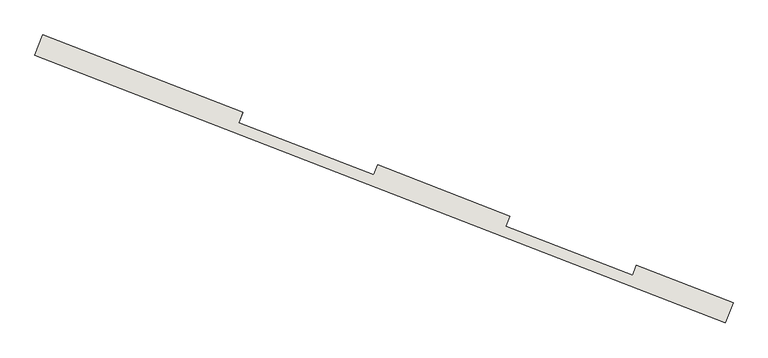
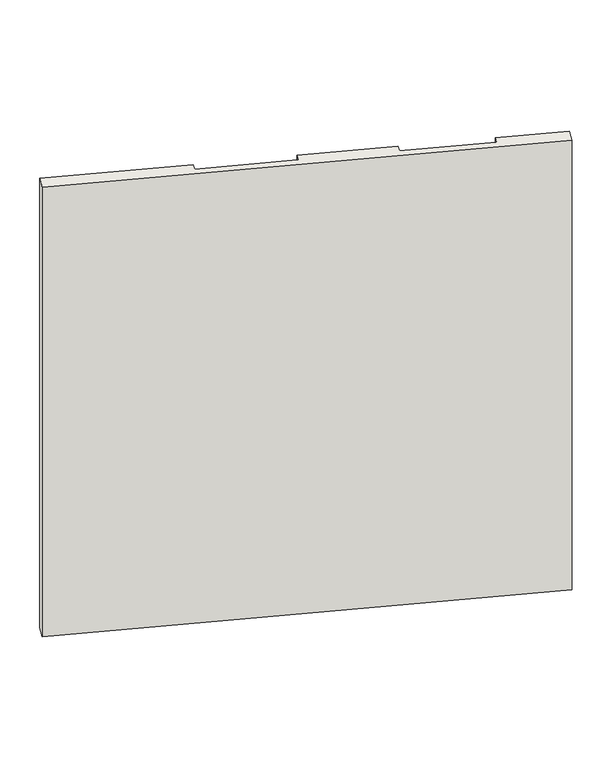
"""IFC4 building model written with IfcOpenShell, lengths in millimetres: wall geometry, kamposite5 : kamposite2."""

from ifc_helpers import new_model, si_unit, origin, place, context, project, spatial, faceted_brep, source, transform, mapped, element, save


def wall_c10d9c7b(model_context):
    return source(origin(), model_context, "Body", "Brep", [
        faceted_brep([(-250.3748169, 15163.2898207, 16500.0), (-250.3748169, 15163.2898207, 13000.0), (2938.093022, 13926.3286894, 13000.0), (2938.093022, 13926.3286894, 16500.0), (-214.2063627, 15256.5198745, 13000.0), (-214.2063627, 15256.5198745, 16500.0), (709.2620227, 14898.2617529, 16500.0), (709.2620227, 14898.2617529, 15720.5733633), (-211.8999426, 15255.6251024, 15720.5733633), (-211.8999426, 15255.6251024, 15670.5733633), (709.2620227, 14898.2617529, 15670.5733633), (709.2620227, 14898.2617529, 13961.5733633), (-211.8999426, 15255.6251024, 13961.5733633), (-211.8999426, 15255.6251024, 13911.5733633), (709.2620227, 14898.2617529, 13911.5733633), (709.2620227, 14898.2617529, 13000.0), (2974.2614761, 14019.5587432, 16500.0), (2974.2614761, 14019.5587432, 15720.5733633), (2528.06193, 14192.661162, 15720.5733633), (2528.06193, 14192.661162, 16500.0), (2974.2614761, 14019.5587432, 13911.5733633), (2974.2614761, 14019.5587432, 13000.0), (2528.06193, 14192.661162, 13000.0), (2528.06193, 14192.661162, 13911.5733633), (2974.2614761, 14019.5587432, 15670.5733633), (2974.2614761, 14019.5587432, 13961.5733633), (2528.06193, 14192.661162, 13961.5733633), (2528.06193, 14192.661162, 15670.5733633), (1333.1327149, 14656.2320897, 16500.0), (1942.8904543, 14419.6775245, 16500.0), (1942.8904543, 14419.6775245, 15720.5733633), (1333.1327149, 14656.2320897, 15720.5733633), (1333.1327149, 14656.2320897, 15670.5733633), (1942.8904543, 14419.6775245, 15670.5733633), (1942.8904543, 14419.6775245, 13961.5733633), (1333.1327149, 14656.2320897, 13961.5733633), (1333.1327149, 14656.2320897, 13911.5733633), (1942.8904543, 14419.6775245, 13911.5733633), (1942.8904543, 14419.6775245, 13000.0), (1333.1327149, 14656.2320897, 13000.0), (691.1777956, 14851.646726, 13000.0), (1315.0484878, 14609.6170628, 13000.0), (1924.8062272, 14373.0624976, 13000.0), (2509.977703, 14146.0461351, 13000.0), (2956.1772491, 13972.9437163, 13911.5733633), (2956.1772491, 13972.9437163, 13961.5733633), (2956.1772491, 13972.9437163, 15670.5733633), (2956.1772491, 13972.9437163, 15720.5733633), (2509.977703, 14146.0461351, 16500.0), (1924.8062272, 14373.0624976, 16500.0), (1315.0484878, 14609.6170628, 16500.0), (691.1777956, 14851.646726, 16500.0), (-229.9841696, 15209.0100755, 15670.5733633), (-229.9841696, 15209.0100755, 15720.5733633), (691.1777956, 14851.646726, 15720.5733633), (1315.0484878, 14609.6170628, 15720.5733633), (1924.8062272, 14373.0624976, 15720.5733633), (2509.977703, 14146.0461351, 15720.5733633), (2509.977703, 14146.0461351, 15670.5733633), (2509.977703, 14146.0461351, 13961.5733633), (2509.977703, 14146.0461351, 13911.5733633), (1924.8062272, 14373.0624976, 13911.5733633), (1315.0484878, 14609.6170628, 13911.5733633), (691.1777956, 14851.646726, 13911.5733633), (-229.9841696, 15209.0100755, 13911.5733633), (-229.9841696, 15209.0100755, 13961.5733633), (691.1777956, 14851.646726, 13961.5733633), (691.1777956, 14851.646726, 15670.5733633), (1924.8062272, 14373.0624976, 15670.5733633), (1315.0484878, 14609.6170628, 15670.5733633), (1315.0484878, 14609.6170628, 13961.5733633), (1924.8062272, 14373.0624976, 13961.5733633)], [[[0, 1, 2, 3]], [[4, 5, 6, 7, 8, 9, 10, 11, 12, 13, 14, 15]], [[16, 17, 18, 19]], [[20, 21, 22, 23]], [[24, 25, 26, 27]], [[28, 29, 30, 31]], [[32, 33, 34, 35]], [[36, 37, 38, 39]], [[1, 0, 5, 4]], [[2, 1, 4, 15, 40, 41, 39, 38, 42, 43, 22, 21]], [[3, 2, 21, 20, 44, 45, 25, 24, 46, 47, 17, 16]], [[0, 3, 16, 19, 48, 49, 29, 28, 50, 51, 6, 5]], [[52, 53, 54, 51, 50, 55, 56, 49, 48, 57, 47, 46, 58, 59, 45, 44, 60, 43, 42, 61, 62, 41, 40, 63, 64, 65, 66, 67], [68, 69, 70, 71]], [[53, 52, 9, 8]], [[33, 32, 69, 68]], [[46, 24, 27, 58]], [[9, 52, 67, 10]], [[31, 30, 56, 55]], [[17, 47, 57, 18]], [[53, 8, 7, 54]], [[65, 64, 13, 12]], [[37, 36, 62, 61]], [[44, 20, 23, 60]], [[13, 64, 63, 14]], [[35, 34, 71, 70]], [[25, 45, 59, 26]], [[65, 12, 11, 66]], [[49, 56, 30, 29]], [[61, 42, 38, 37]], [[68, 71, 34, 33]], [[57, 48, 19, 18]], [[59, 58, 27, 26]], [[43, 60, 23, 22]], [[51, 54, 7, 6]], [[63, 40, 15, 14]], [[67, 66, 11, 10]], [[55, 50, 28, 31]], [[41, 62, 36, 39]], [[70, 69, 32, 35]]]),
    ])


if __name__ == "__main__":
    model = new_model("IFC4")
    model_context = context("Model", 3, world=origin())
    ifc_project = project(units=[si_unit("LENGTHUNIT", "METRE", prefix="MILLI")], contexts=[model_context])
    site = spatial("IfcSite", under=ifc_project)
    building = spatial("IfcBuilding", under=site)
    placement = place(None, origin())
    wall_shape = wall_c10d9c7b(model_context)
    element("IfcWall", 1, ObjectType="kamposite5 : kamposite2", at=placement, inside=building, context=model_context, shape_type="MappedRepresentation", body=[
        mapped(wall_shape, transform((0.0, 0.0, 0.0), x_axis=(1.0, 0.0, 0.0), y_axis=(0.0, 1.0, 0.0), z_axis=(0.0, 0.0, 1.0))),
    ])
    save(model, "model.ifc")
